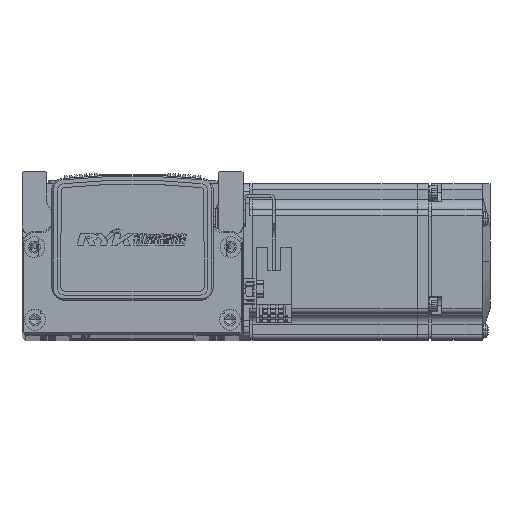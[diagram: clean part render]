
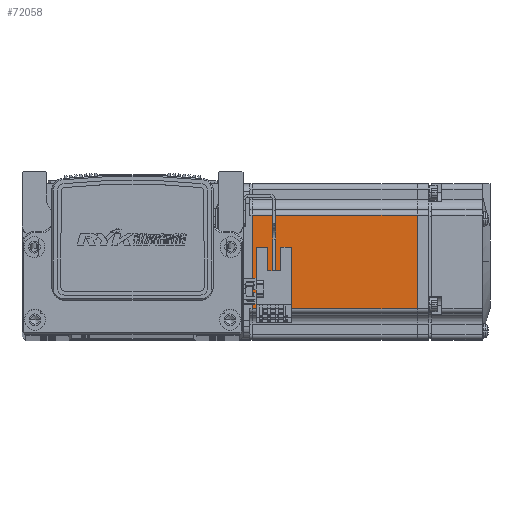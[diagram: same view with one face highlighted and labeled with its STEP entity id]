
A CAD part, top view. The second image highlights one B-rep face of the part: STEP entity #72058.
In plain terms, the highlighted planar face has unit normal (0, 0, 1) as drawn and (0, 0, -1) by its records, which use the part's own axes.
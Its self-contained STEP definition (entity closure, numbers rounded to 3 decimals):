
#7775 = VERTEX_POINT ( 'NONE', #85771 ) ;
#7781 = VERTEX_POINT ( 'NONE', #85820 ) ;
#7842 = VERTEX_POINT ( 'NONE', #85814 ) ;
#7871 = VERTEX_POINT ( 'NONE', #85827 ) ;
#22329 = EDGE_CURVE ( 'NONE', #7781, #7775, #48259, .T. ) ;
#22342 = EDGE_CURVE ( 'NONE', #7775, #7842, #48183, .T. ) ;
#22383 = EDGE_CURVE ( 'NONE', #7842, #7871, #48625, .T. ) ;
#22430 = EDGE_CURVE ( 'NONE', #7871, #7781, #48846, .T. ) ;
#24254 = PLANE ( 'NONE',  #40359 ) ;
#24255 = CARTESIAN_POINT ( 'NONE',  ( -6.5, 25., -30. ) ) ;
#24256 = DIRECTION ( 'NONE',  ( 0., 0., -1. ) ) ;
#24257 = DIRECTION ( 'NONE',  ( -1., 0., 0. ) ) ;
#32570 = EDGE_LOOP ( 'NONE', ( #85960, #85949, #85932, #85902 ) ) ;
#40359 = AXIS2_PLACEMENT_3D ( 'NONE', #24255, #24256, #24257 ) ;
#42412 = CARTESIAN_POINT ( 'NONE',  ( -70.95, 25., -30. ) ) ;
#42416 = DIRECTION ( 'NONE',  ( 0., 1., 0. ) ) ;
#42442 = DIRECTION ( 'NONE',  ( 1., 0., 0. ) ) ;
#42494 = CARTESIAN_POINT ( 'NONE',  ( -6.5, 18., -30. ) ) ;
#42697 = DIRECTION ( 'NONE',  ( 0., -1., 0. ) ) ;
#42718 = CARTESIAN_POINT ( 'NONE',  ( -7.75, 25., -30. ) ) ;
#42986 = DIRECTION ( 'NONE',  ( -1., 0., 0. ) ) ;
#43000 = CARTESIAN_POINT ( 'NONE',  ( -6.5, -18., -30. ) ) ;
#43091 = FACE_OUTER_BOUND ( 'NONE', #32570, .T. ) ;
#48183 = LINE ( 'NONE', #42494, #48221 ) ;
#48221 = VECTOR ( 'NONE', #42442, 1000. ) ;
#48259 = LINE ( 'NONE', #42412, #48261 ) ;
#48261 = VECTOR ( 'NONE', #42416, 1000. ) ;
#48625 = LINE ( 'NONE', #42718, #48637 ) ;
#48637 = VECTOR ( 'NONE', #42697, 1000. ) ;
#48715 = VECTOR ( 'NONE', #42986, 1000. ) ;
#48846 = LINE ( 'NONE', #43000, #48715 ) ;
#72058 = ADVANCED_FACE ( 'NONE', ( #43091 ), #24254, .T. ) ;
#85771 = CARTESIAN_POINT ( 'NONE',  ( -70.95, 18., -30. ) ) ;
#85814 = CARTESIAN_POINT ( 'NONE',  ( -7.75, 18., -30. ) ) ;
#85820 = CARTESIAN_POINT ( 'NONE',  ( -70.95, -18., -30. ) ) ;
#85827 = CARTESIAN_POINT ( 'NONE',  ( -7.75, -18., -30. ) ) ;
#85902 = ORIENTED_EDGE ( 'NONE', *, *, #22342, .T. ) ;
#85932 = ORIENTED_EDGE ( 'NONE', *, *, #22329, .T. ) ;
#85949 = ORIENTED_EDGE ( 'NONE', *, *, #22430, .T. ) ;
#85960 = ORIENTED_EDGE ( 'NONE', *, *, #22383, .T. ) ;
